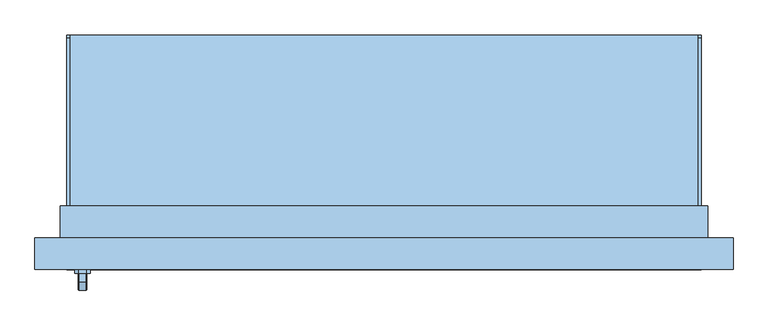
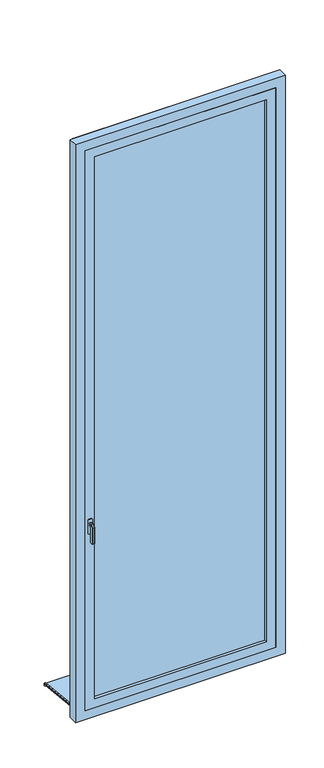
"""IFC4 building model written with IfcOpenShell, lengths in millimetres: window geometry, Fenêtres - PF 1 Vantail - Droite - 1.00m x 3.15m."""

from ifc_helpers import new_model, si_unit, point, frame, frame_2d, origin, place, context, project, spatial, polyline, circle_curve, trimmed, segment, composite_curve, outline, extrude, faceted_brep, source, transform, mapped, element, save


def window_71aed64f(model_context):
    return source(origin(), model_context, "Body", "SolidModel", [
        extrude(outline(polyline([(690.0288776, 9.7719484), (690.0288776, -1.3062541), (685.0288776, -0.7807329), (685.0288776, 5.0422578), (400.0, 35.0), (400.0, 50.0), (405.0, 50.0), (405.0, 39.7296906), (690.0288776, 9.7719484)])), frame((50.0, 0.0, 0.0), z_axis=(1.0, 0.0, 0.0), x_axis=(0.0, 1.0, 0.0)), (0.0, 0.0, 1.0), 1000.0),
        extrude(outline(composite_curve([segment(polyline([(690.0288776, 9.7719484), (405.0, 39.7296906), (405.0, 44.757232), (686.4469915, 15.1759612)]), True, "CONTINUOUS"), segment(trimmed(circle_curve(frame_2d((686.0288776, 11.1978736)), 4.0), [point((686.4469915, 15.1759612))], [point((690.0288776, 11.1978736))], False, "CARTESIAN"), True, "CONTINUOUS"), segment(polyline([(690.0288776, 11.1978736), (690.0288776, 9.7719484)]), True, "CONTINUOUS")], self_intersect=False)), frame((50.0, 0.0, 0.0), z_axis=(1.0, 0.0, 0.0), x_axis=(0.0, 1.0, 0.0)), (0.0, 0.0, 1.0), 5.0),
        extrude(outline(composite_curve([segment(polyline([(690.0288776, 9.7719484), (405.0, 39.7296906), (405.0, 44.757232), (686.4469915, 15.1759612)]), True, "CONTINUOUS"), segment(trimmed(circle_curve(frame_2d((686.0288776, 11.1978736)), 4.0), [point((686.4469915, 15.1759612))], [point((690.0288776, 11.1978736))], False, "CARTESIAN"), True, "CONTINUOUS"), segment(polyline([(690.0288776, 11.1978736), (690.0288776, 9.7719484)]), True, "CONTINUOUS")], self_intersect=False)), frame((1045.0, 0.0, 0.0), z_axis=(1.0, 0.0, 0.0), x_axis=(0.0, 1.0, 0.0)), (0.0, 0.0, 1.0), 5.0),
        extrude(outline(polyline([(100.0, 346.0), (1000.0, 346.0), (1000.0, 334.0), (100.0, 334.0), (100.0, 346.0)])), frame((0.0, 0.0, 135.0), z_axis=(0.0, 0.0, 1.0), x_axis=(1.0, 0.0, 0.0)), (0.0, 0.0, 1.0), 3000.0),
        extrude(outline(polyline([(85.0, 1050.0), (3185.0, 1050.0), (3185.0, 50.0), (85.0, 50.0), (85.0, 1050.0)]), holes=[polyline([(135.0, 100.0), (3135.0, 100.0), (3135.0, 1000.0), (135.0, 1000.0), (135.0, 100.0)])]), frame((0.0, 320.0, 0.0), z_axis=(0.0, 1.0, 0.0), x_axis=(0.0, 0.0, 1.0)), (0.0, 0.0, 1.0), 40.0),
        extrude(outline(polyline([(35.0, 40.0), (35.0, 50.0), (3185.0, 50.0), (3185.0, 1050.0), (35.0, 1050.0), (35.0, 1060.0), (3195.0, 1060.0), (3195.0, 40.0), (35.0, 40.0)])), frame((0.0, 370.0, 0.0), z_axis=(0.0, 1.0, 0.0), x_axis=(0.0, 0.0, 1.0)), (0.0, 0.0, 1.0), 50.0),
        faceted_brep([(69.3539903, 314.0, 1122.0339292), (80.6460097, 314.0, 1122.0339292), (82.0339292, 314.0, 1120.6460097), (82.0339292, 314.0, 1109.3323012), (80.6676988, 314.0, 1107.9660708), (69.3323012, 314.0, 1107.9660708), (67.9660708, 314.0, 1109.3323012), (67.9660708, 314.0, 1120.6460097), (82.0339292, 301.6613462, 1120.6460097), (80.6460097, 301.0864511, 1122.0339292), (82.0339292, 306.3476377, 1109.3323012), (82.0339292, 288.3539903, 1107.3386538), (82.0339292, 288.3539903, 1020.0), (82.0339292, 299.6676988, 1020.0), (82.0339292, 299.6676988, 1102.6523623), (80.6676988, 306.9135489, 1107.9660708), (69.3323012, 306.9135489, 1107.9660708), (67.9660708, 306.3476377, 1109.3323012), (67.9660708, 301.6613462, 1120.6460097), (67.9660708, 299.6676988, 1102.6523623), (67.9660708, 299.6676988, 1020.0), (67.9660708, 288.3539903, 1020.0), (67.9660708, 288.3539903, 1107.3386538), (69.3539903, 301.0864511, 1122.0339292), (80.6460097, 286.9660708, 1107.9135489), (80.6676988, 301.0339292, 1102.0864511), (69.3323012, 301.0339292, 1102.0864511), (69.3539903, 286.9660708, 1107.9135489), (80.6460097, 286.9660708, 1020.0), (69.3539903, 286.9660708, 1020.0), (69.3323012, 301.0339292, 1020.0), (80.6676988, 301.0339292, 1020.0)], [[[0, 1, 2, 3, 4, 5, 6, 7]], [[8, 2, 1, 9]], [[10, 3, 2, 8, 11, 12, 13, 14]], [[15, 4, 3, 10]], [[16, 5, 4, 15]], [[17, 6, 5, 16]], [[18, 7, 6, 17, 19, 20, 21, 22]], [[23, 0, 7, 18]], [[9, 1, 0, 23]], [[11, 8, 9, 24]], [[25, 15, 10, 14]], [[26, 16, 15, 25]], [[19, 17, 16, 26]], [[27, 23, 18, 22]], [[24, 9, 23, 27]], [[12, 28, 29, 21, 20, 30, 31, 13]], [[12, 11, 24, 28]], [[31, 25, 14, 13]], [[30, 26, 25, 31]], [[20, 19, 26, 30]], [[29, 27, 22, 21]], [[28, 24, 27, 29]]]),
        faceted_brep([(1100.0, 320.0, 35.0), (0.0, 320.0, 35.0), (0.0, 370.0, 35.0), (50.0, 370.0, 35.0), (50.0, 400.0, 35.0), (1050.0, 400.0, 35.0), (1050.0, 370.0, 35.0), (1100.0, 370.0, 35.0), (0.0, 370.0, 3235.0), (0.0, 320.0, 3235.0), (1100.0, 370.0, 3235.0), (1050.0, 370.0, 74.3761425), (50.0, 370.0, 74.3761425), (1035.0, 370.0, 3170.0), (65.0, 370.0, 3170.0), (65.0, 370.0, 100.0), (1035.0, 370.0, 100.0), (50.0, 420.0, 60.9786829), (50.0, 420.0, 45.0), (50.0, 410.0, 45.0), (50.0, 410.0, 50.0), (50.0, 400.0, 50.0), (1050.0, 400.0, 50.0), (1050.0, 410.0, 50.0), (1050.0, 410.0, 45.0), (1050.0, 420.0, 45.0), (1050.0, 420.0, 60.9786829), (1100.0, 320.0, 3235.0), (50.0, 320.0, 3185.0), (1050.0, 320.0, 3185.0), (1050.0, 320.0, 85.0), (50.0, 320.0, 85.0), (65.0, 360.0, 3170.0), (65.0, 360.0, 100.0), (1035.0, 360.0, 100.0), (1035.0, 360.0, 3170.0), (1050.0, 360.0, 85.0), (1050.0, 360.0, 3185.0), (50.0, 360.0, 3185.0), (50.0, 360.0, 85.0)], [[[0, 1, 2, 3, 4, 5, 6, 7]], [[8, 2, 1, 9]], [[3, 2, 8, 10, 7, 6, 11, 12], [13, 14, 15, 16]], [[3, 12, 17, 18, 19, 20, 21, 4]], [[5, 4, 21, 22]], [[6, 5, 22, 23, 24, 25, 26, 11]], [[0, 7, 10, 27]], [[9, 1, 0, 27], [28, 29, 30, 31]], [[15, 14, 32, 33]], [[15, 33, 34, 16]], [[34, 35, 13, 16]], [[26, 17, 12, 11]], [[36, 37, 38, 39], [33, 32, 35, 34]], [[31, 39, 38, 28]], [[39, 31, 30, 36]], [[30, 29, 37, 36]], [[25, 18, 17, 26]], [[24, 19, 18, 25]], [[23, 20, 19, 24]], [[22, 21, 20, 23]], [[32, 14, 13, 35]], [[28, 38, 37, 29]], [[27, 10, 8, 9]]]),
        extrude(outline(polyline([(1140.0, 82.0), (1140.0, 68.0), (1135.0, 63.0), (1065.0, 63.0), (1060.0, 68.0), (1060.0, 82.0), (1065.0, 87.0), (1135.0, 87.0), (1140.0, 82.0)])), frame((0.0, 314.0, 0.0), z_axis=(0.0, 1.0, 0.0), x_axis=(0.0, 0.0, 1.0)), (0.0, 0.0, 1.0), 6.0),
    ])


if __name__ == "__main__":
    model = new_model("IFC4")
    model_context = context("Model", 3, world=origin())
    ifc_project = project(units=[si_unit("LENGTHUNIT", "METRE", prefix="MILLI")], contexts=[model_context])
    site = spatial("IfcSite", under=ifc_project)
    building = spatial("IfcBuilding", under=site)
    placement = place(None, origin())
    window_shape = window_71aed64f(model_context)
    element("IfcWindow", 1, ObjectType="Fenêtres - PF 1 Vantail - Droite - 1.00m x 3.15m", at=placement, inside=building, context=model_context, shape_type="MappedRepresentation", body=[
        mapped(window_shape, transform((0.0, 0.0, 0.0), x_axis=(1.0, 0.0, 0.0), y_axis=(0.0, 1.0, 0.0), z_axis=(0.0, 0.0, 1.0))),
    ])
    save(model, "model.ifc")
